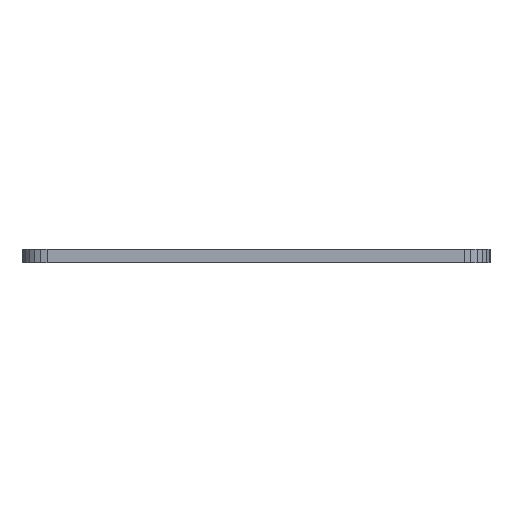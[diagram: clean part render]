
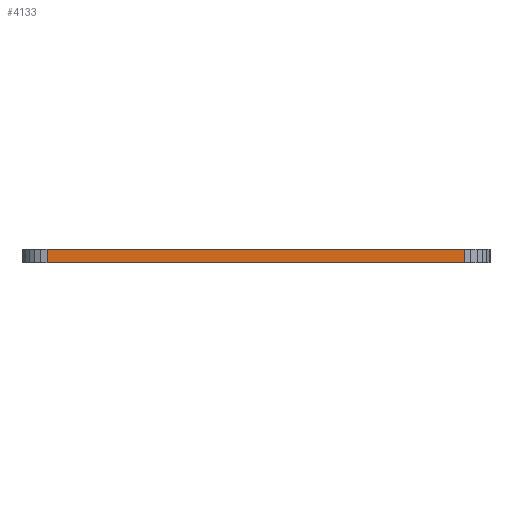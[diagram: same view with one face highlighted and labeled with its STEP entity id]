
A CAD part, left-side view. The second image highlights one B-rep face of the part: STEP entity #4133.
In plain terms, the highlighted planar face has unit normal (-1, 0, 0).
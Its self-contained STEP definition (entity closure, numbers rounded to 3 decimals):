
#19 = EDGE_CURVE ( 'NONE', #7445, #2796, #1938, .T. ) ;
#463 = AXIS2_PLACEMENT_3D ( 'NONE', #8587, #6495, #6589 ) ;
#613 = VERTEX_POINT ( 'NONE', #4257 ) ;
#839 = CARTESIAN_POINT ( 'NONE',  ( 3.8, 56.8, 1.6 ) ) ;
#1049 = CARTESIAN_POINT ( 'NONE',  ( 3.8, 56.8, 0. ) ) ;
#1115 = EDGE_CURVE ( 'NONE', #3772, #7445, #4568, .T. ) ;
#1197 = LINE ( 'NONE', #5745, #5922 ) ;
#1337 = EDGE_CURVE ( 'NONE', #613, #2796, #1197, .T. ) ;
#1647 = EDGE_CURVE ( 'NONE', #3772, #613, #6305, .T. ) ;
#1750 = ORIENTED_EDGE ( 'NONE', *, *, #1115, .T. ) ;
#1938 = LINE ( 'NONE', #4773, #3294 ) ;
#2137 = DIRECTION ( 'NONE',  ( 0., 0., -1. ) ) ;
#2665 = VECTOR ( 'NONE', #6304, 1000. ) ;
#2796 = VERTEX_POINT ( 'NONE', #2908 ) ;
#2893 = ORIENTED_EDGE ( 'NONE', *, *, #1647, .F. ) ;
#2908 = CARTESIAN_POINT ( 'NONE',  ( 3.8, 6.9, 0. ) ) ;
#3294 = VECTOR ( 'NONE', #8111, 1000. ) ;
#3638 = VECTOR ( 'NONE', #2137, 1000. ) ;
#3772 = VERTEX_POINT ( 'NONE', #8628 ) ;
#4133 = ADVANCED_FACE ( 'NONE', ( #4993 ), #6431, .F. ) ;
#4257 = CARTESIAN_POINT ( 'NONE',  ( 3.8, 6.9, 1.6 ) ) ;
#4281 = ORIENTED_EDGE ( 'NONE', *, *, #1337, .F. ) ;
#4568 = LINE ( 'NONE', #839, #3638 ) ;
#4773 = CARTESIAN_POINT ( 'NONE',  ( 3.8, 6.9, 0. ) ) ;
#4993 = FACE_OUTER_BOUND ( 'NONE', #5806, .T. ) ;
#5714 = ORIENTED_EDGE ( 'NONE', *, *, #19, .T. ) ;
#5745 = CARTESIAN_POINT ( 'NONE',  ( 3.8, 6.9, 1.6 ) ) ;
#5806 = EDGE_LOOP ( 'NONE', ( #5714, #4281, #2893, #1750 ) ) ;
#5922 = VECTOR ( 'NONE', #8564, 1000. ) ;
#6304 = DIRECTION ( 'NONE',  ( 0., -1., 0. ) ) ;
#6305 = LINE ( 'NONE', #8330, #2665 ) ;
#6431 = PLANE ( 'NONE',  #463 ) ;
#6495 = DIRECTION ( 'NONE',  ( 1., 0., 0. ) ) ;
#6589 = DIRECTION ( 'NONE',  ( 0., 0., -1. ) ) ;
#7445 = VERTEX_POINT ( 'NONE', #1049 ) ;
#8111 = DIRECTION ( 'NONE',  ( 0., -1., 0. ) ) ;
#8330 = CARTESIAN_POINT ( 'NONE',  ( 3.8, 6.9, 1.6 ) ) ;
#8564 = DIRECTION ( 'NONE',  ( 0., 0., -1. ) ) ;
#8587 = CARTESIAN_POINT ( 'NONE',  ( 3.8, 6.9, 1.6 ) ) ;
#8628 = CARTESIAN_POINT ( 'NONE',  ( 3.8, 56.8, 1.6 ) ) ;
